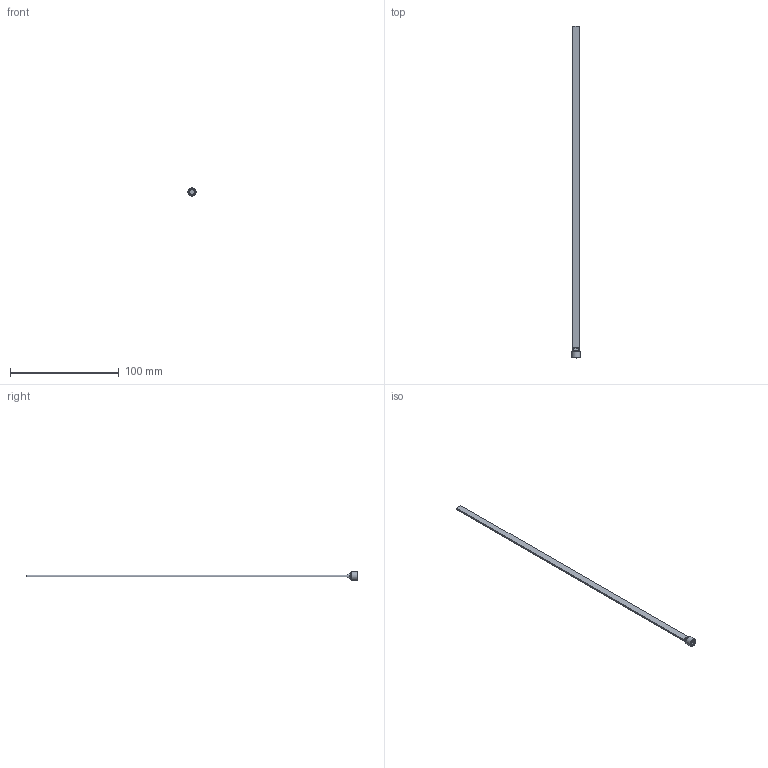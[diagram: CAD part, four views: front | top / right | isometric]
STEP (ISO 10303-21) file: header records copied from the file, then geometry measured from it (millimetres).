
FILE_DESCRIPTION(/* description */ (''),/* implementation_level */ '2;1');
FILE_NAME(/* name */ 'C:/Users/drich/Desktop/SB16X12 v1.step',/* time_stamp */ '2019-12-29T15:52:28-06:00',/* author */ (''),/* organization */ (''),/* preprocessor_version */ 'ST-DEVELOPER v18',/* originating_system */ 'Autodesk Translation Framework v8.12.0.6',/* authorisation */ '');
FILE_SCHEMA (('AUTOMOTIVE_DESIGN { 1 0 10303 214 3 1 1 }'));
Length unit declared in the file: inch
Products named in the file (1): SB16X12
Bounding box: 7.62 x 304.8 x 7.62 mm (x, y, z)
Volume: 2916.9 mm3; surface area: 4787.3 mm2
Topology: 1 solids, 1 shells, 42 faces, 111 edges, 73 vertices
Faces by surface type: plane 20, cylinder 9, cone 8, torus 5
Full cylindrical faces by diameter (mm): 7.616 x1
Entity records: 1453 total; most frequent: CARTESIAN_POINT 383, ORIENTED_EDGE 222, DIRECTION 209, EDGE_CURVE 111, AXIS2_PLACEMENT_3D 77, VERTEX_POINT 73, LINE 55, VECTOR 55
